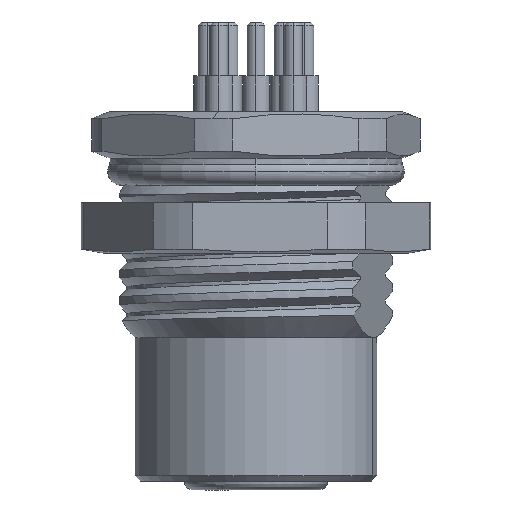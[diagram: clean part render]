
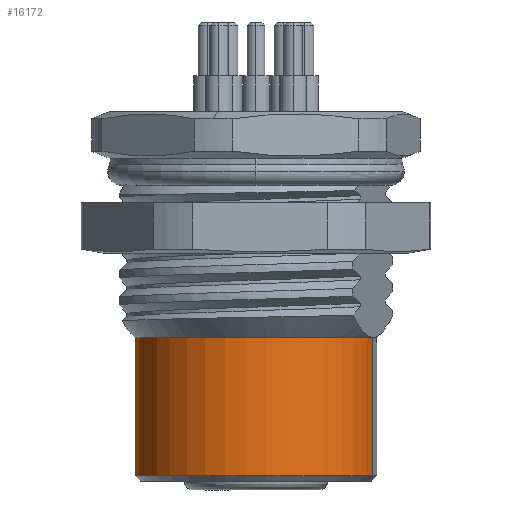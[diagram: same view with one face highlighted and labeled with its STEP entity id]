
A CAD part, left-side view. The second image highlights one B-rep face of the part: STEP entity #16172.
In plain terms, the highlighted cylindrical face has radius 6.75 mm (diameter 13.5 mm), a partial arc.
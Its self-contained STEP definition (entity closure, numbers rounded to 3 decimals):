
#78 = LINE ( 'NONE', #18337, #19586 ) ;
#606 = CARTESIAN_POINT ( 'NONE',  ( -1.747, -6.52, -7.7 ) ) ;
#719 = CARTESIAN_POINT ( 'NONE',  ( 0., 0., -7.7 ) ) ;
#985 = CARTESIAN_POINT ( 'NONE',  ( 1.747, 6.52, 0. ) ) ;
#1716 = VERTEX_POINT ( 'NONE', #606 ) ;
#2825 = AXIS2_PLACEMENT_3D ( 'NONE', #719, #10598, #21187 ) ;
#2910 = CARTESIAN_POINT ( 'NONE',  ( 1.747, 6.52, 0. ) ) ;
#3599 = DIRECTION ( 'NONE',  ( 0., 0., -1. ) ) ;
#4465 = CIRCLE ( 'NONE', #10141, 6.75 ) ;
#5110 = AXIS2_PLACEMENT_3D ( 'NONE', #14211, #22382, #17258 ) ;
#8737 = VERTEX_POINT ( 'NONE', #18659 ) ;
#10141 = AXIS2_PLACEMENT_3D ( 'NONE', #18996, #11464, #32008 ) ;
#10598 = DIRECTION ( 'NONE',  ( 0., 0., 1. ) ) ;
#11464 = DIRECTION ( 'NONE',  ( 0., 0., -1. ) ) ;
#11604 = CIRCLE ( 'NONE', #2825, 6.75 ) ;
#12162 = EDGE_CURVE ( 'NONE', #17701, #1716, #78, .T. ) ;
#12477 = ORIENTED_EDGE ( 'NONE', *, *, #32128, .T. ) ;
#14211 = CARTESIAN_POINT ( 'NONE',  ( 0., 0., 0. ) ) ;
#16172 = ADVANCED_FACE ( 'NONE', ( #17901 ), #26829, .T. ) ;
#17243 = EDGE_CURVE ( 'NONE', #17701, #21320, #4465, .T. ) ;
#17258 = DIRECTION ( 'NONE',  ( -0.259, -0.966, 0. ) ) ;
#17701 = VERTEX_POINT ( 'NONE', #30113 ) ;
#17901 = FACE_OUTER_BOUND ( 'NONE', #20611, .T. ) ;
#18337 = CARTESIAN_POINT ( 'NONE',  ( -1.747, -6.52, 0. ) ) ;
#18659 = CARTESIAN_POINT ( 'NONE',  ( 1.747, 6.52, -7.7 ) ) ;
#18996 = CARTESIAN_POINT ( 'NONE',  ( 0., 0., 0. ) ) ;
#19586 = VECTOR ( 'NONE', #31140, 1000. ) ;
#20611 = EDGE_LOOP ( 'NONE', ( #22771, #12477, #25080, #23046 ) ) ;
#21187 = DIRECTION ( 'NONE',  ( -0.259, -0.966, 0. ) ) ;
#21320 = VERTEX_POINT ( 'NONE', #2910 ) ;
#21379 = VECTOR ( 'NONE', #3599, 1000. ) ;
#22157 = LINE ( 'NONE', #985, #21379 ) ;
#22382 = DIRECTION ( 'NONE',  ( 0., 0., -1. ) ) ;
#22771 = ORIENTED_EDGE ( 'NONE', *, *, #17243, .T. ) ;
#23046 = ORIENTED_EDGE ( 'NONE', *, *, #12162, .F. ) ;
#25080 = ORIENTED_EDGE ( 'NONE', *, *, #27627, .T. ) ;
#26829 = CYLINDRICAL_SURFACE ( 'NONE', #5110, 6.75 ) ;
#27627 = EDGE_CURVE ( 'NONE', #8737, #1716, #11604, .T. ) ;
#30113 = CARTESIAN_POINT ( 'NONE',  ( -1.747, -6.52, 0. ) ) ;
#31140 = DIRECTION ( 'NONE',  ( 0., 0., -1. ) ) ;
#32008 = DIRECTION ( 'NONE',  ( -0.259, -0.966, 0. ) ) ;
#32128 = EDGE_CURVE ( 'NONE', #21320, #8737, #22157, .T. ) ;
